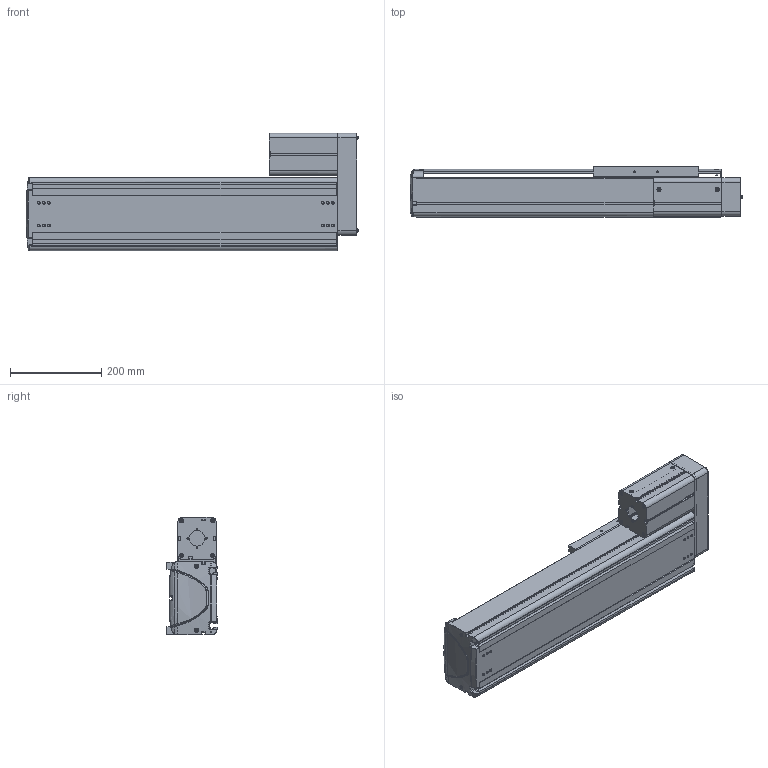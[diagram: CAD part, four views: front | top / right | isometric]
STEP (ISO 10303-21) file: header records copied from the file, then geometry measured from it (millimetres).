
FILE_DESCRIPTION((''),'2;1');
FILE_NAME('BE50F-UR-L_N-35_IGS_PRT','2017-06-18T',(' '),(''),'PRO/ENGINEER BY PARAMETRIC TECHNOLOGY CORPORATION, 2015030','PRO/ENGINEER BY PARAMETRIC TECHNOLOGY CORPORATION, 2015030','');
FILE_SCHEMA(('CONFIG_CONTROL_DESIGN'));
Length unit declared in the file: millimetre
Products named in the file (1): BE50F-UR-L_N-35_IGS_PRT
Bounding box: 725.88 x 110 x 257 mm (x, y, z)
Volume: 3853797.4 mm3; surface area: 1414762.9 mm2
Topology: 2 solids, 115 shells, 2147 faces, 5792 edges, 3766 vertices
Faces by surface type: plane 1000, cylinder 885, cone 119, torus 59, bspline 52, sphere 32
Entity records: 70619 total; most frequent: CARTESIAN_POINT 16005, DIRECTION 11494, ORIENTED_EDGE 11076, EDGE_CURVE 5750, AXIS2_PLACEMENT_3D 4085, VERTEX_POINT 3766, VECTOR 3324, LINE 3324
